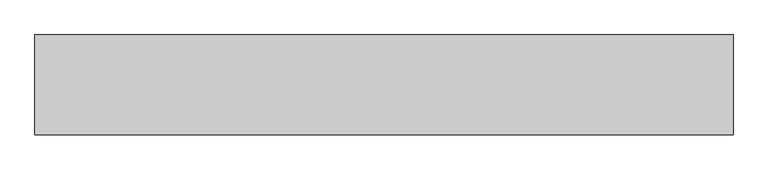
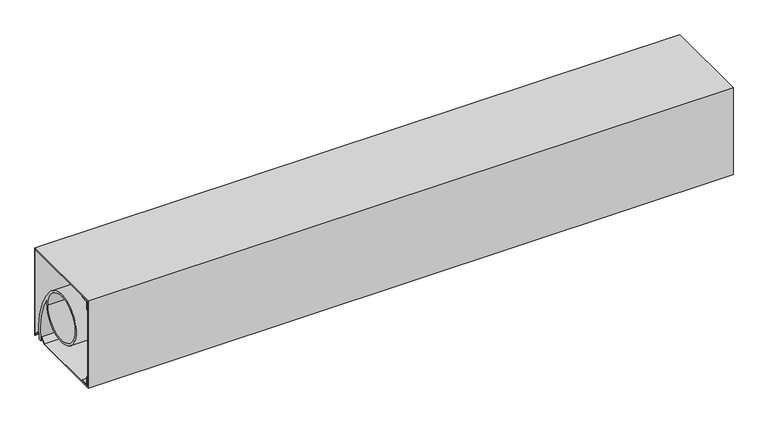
"""IFC4 building model written with IfcOpenShell, lengths in millimetres: proxy geometry, וילון אש מרכזי : וילון אש מרכזי."""

from ifc_helpers import new_model, si_unit, point, frame, frame_2d, origin, place, context, project, spatial, polyline, circle_curve, trimmed, segment, composite_curve, outline, extrude, source, transform, mapped, element, save


def generic_models_8fcbebde(model_context):
    return source(origin(), model_context, "Body", "SweptSolid", [
        extrude(outline(polyline([(200.0, 2332.0), (200.0, 2132.0), (189.3933983, 2142.6066017), (190.8076118, 2144.0208153), (198.0, 2136.8284271), (198.0, 2330.0), (2.0, 2330.0), (2.0, 2134.0), (164.1715729, 2134.0), (174.1923882, 2144.0208153), (175.6066017, 2142.6066017), (165.0, 2132.0), (0.0, 2132.0), (0.0, 2332.0), (200.0, 2332.0)])), frame((0.0, 0.0, 0.0), z_axis=(1.0, 0.0, 0.0), x_axis=(0.0, 1.0, 0.0)), (0.0, 0.0, 1.0), 1400.0),
        extrude(outline(polyline([(2.7195991, 2309.3307098), (2.7195991, 2329.3307098), (22.7195991, 2329.3307098), (22.7195991, 2327.3307098), (4.7195991, 2327.3307098), (4.7195991, 2309.3307098), (2.7195991, 2309.3307098)])), frame((0.0, 0.0, 0.0), z_axis=(1.0, 0.0, 0.0), x_axis=(0.0, 1.0, 0.0)), (0.0, 0.0, 1.0), 1400.0),
        extrude(outline(polyline([(2.7195991, 2154.6692902), (4.7195991, 2154.6692902), (4.7195991, 2136.6692902), (22.7195991, 2136.6692902), (22.7195991, 2134.6692902), (2.7195991, 2134.6692902), (2.7195991, 2154.6692902)])), frame((0.0, 0.0, 0.0), z_axis=(1.0, 0.0, 0.0), x_axis=(0.0, 1.0, 0.0)), (0.0, 0.0, 1.0), 1400.0),
        extrude(outline(composite_curve([segment(trimmed(circle_curve(frame_2d((100.0, 2232.0)), 55.0), [point((153.3458963, 2245.3871335))], [point((139.9794591, 2269.7709259))], False, "CARTESIAN"), True, "CONTINUOUS"), segment(trimmed(circle_curve(frame_2d((21.9220769, 2156.108421)), 163.8801713), [point((139.9794591, 2269.7709259))], [point((184.0192532, 2132.0))], False, "CARTESIAN"), True, "CONTINUOUS"), segment(polyline([(184.0192532, 2132.0), (178.9624948, 2132.0)]), True, "CONTINUOUS"), segment(trimmed(circle_curve(frame_2d((21.9220769, 2156.108421)), 158.8801713), [point((178.9624948, 2132.0))], [point((153.3458963, 2245.3871335))], True, "CARTESIAN"), True, "CONTINUOUS")], self_intersect=False), holes=[composite_curve([segment(trimmed(circle_curve(frame_2d((100.0, 2232.0)), 50.0), [point((50.0, 2232.0))], [point((150.0, 2232.0))], True, "CARTESIAN"), True, "CONTINUOUS"), segment(trimmed(circle_curve(frame_2d((100.0, 2232.0)), 50.0), [point((150.0, 2232.0))], [point((50.0, 2232.0))], True, "CARTESIAN"), True, "CONTINUOUS")], self_intersect=False)]), frame((0.0, 0.0, 0.0), z_axis=(1.0, 0.0, 0.0), x_axis=(0.0, 1.0, 0.0)), (0.0, 0.0, 1.0), 1400.0),
    ])


if __name__ == "__main__":
    model = new_model("IFC4")
    model_context = context("Model", 3, world=origin())
    ifc_project = project(units=[si_unit("LENGTHUNIT", "METRE", prefix="MILLI")], contexts=[model_context])
    site = spatial("IfcSite", under=ifc_project)
    building = spatial("IfcBuilding", under=site)
    placement = place(None, origin())
    generic_models_shape = generic_models_8fcbebde(model_context)
    element("IfcBuildingElementProxy", 1, Name="וילון אש מרכזי : וילון אש מרכזי", ObjectType="וילון אש מרכזי : וילון אש מרכזי", at=placement, inside=building, context=model_context, shape_type="MappedRepresentation", body=[
        mapped(generic_models_shape, transform((0.0, 0.0, 0.0), x_axis=(1.0, 0.0, 0.0), y_axis=(0.0, 1.0, 0.0), z_axis=(0.0, 0.0, 1.0))),
    ])
    save(model, "model.ifc")
